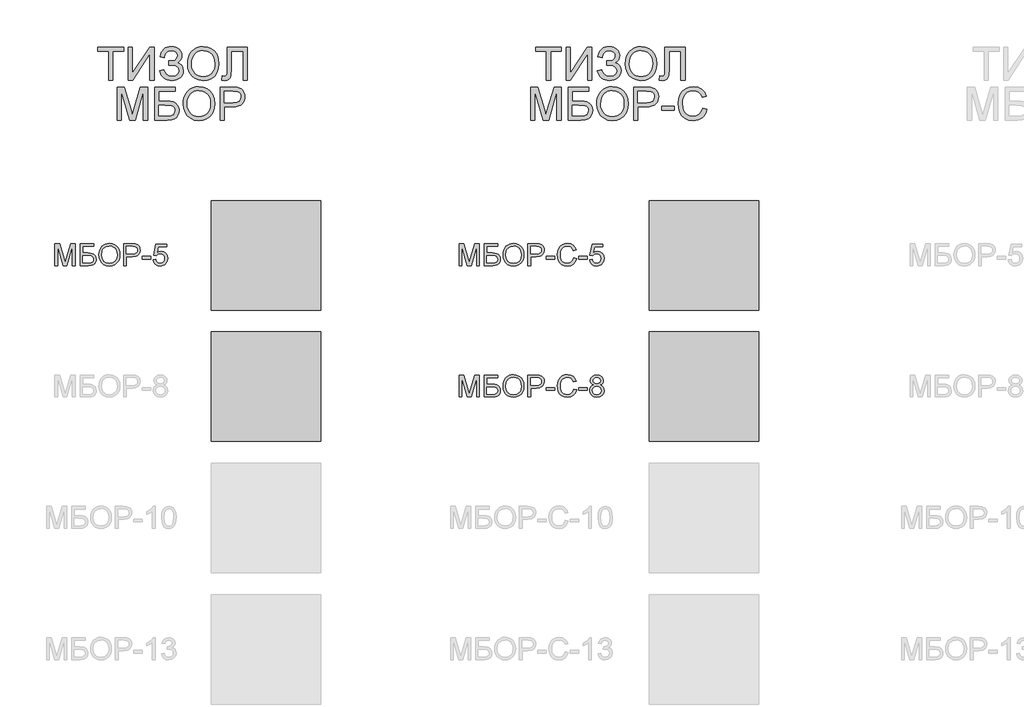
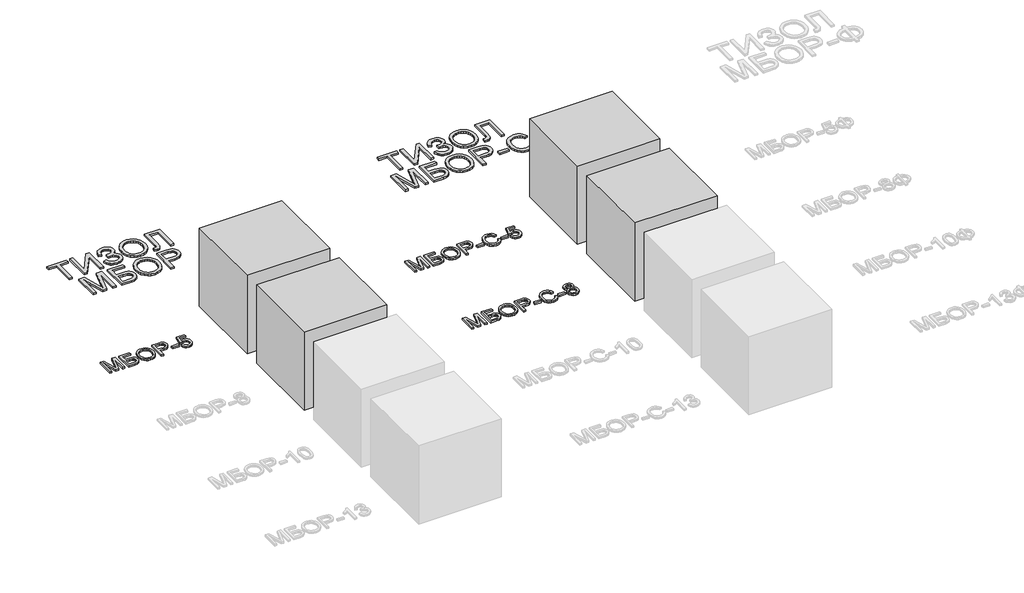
# One storey, part 24 of 35: 9 proxies.
"""IFC4 building model written with IfcOpenShell, lengths in millimetres."""

from ifc_helpers import new_model, si_unit, origin, origin_with_axes, place, context, project, spatial, polyline, outline, extrude, transform, mapped, element, save
from components import generic_models_0168a45e

model = new_model("IFC4")

# Units and contexts
model_context = context("Model", 3, world=origin())
ifc_project = project(units=[si_unit("LENGTHUNIT", "METRE", prefix="MILLI")], contexts=[model_context])

# Site, building, storey
site = spatial("IfcSite", under=ifc_project)
building = spatial("IfcBuilding", under=site)
storey = spatial("IfcBuildingStorey", under=building, Name="Этаж 01", Elevation=0.0)

# Proxies
placement = place(None, origin())
element("IfcBuildingElementProxy", 1, Name="600 мм Arial", ObjectType="600 мм Arial", at=placement, inside=storey, context=model_context, shape_type="SweptSolid", body=[
    extrude(outline(polyline([(8712.8246338, -20514.0239469), (8712.8246338, -20250.3261327), (8613.9379535, -20250.3261327), (8613.9379535, -20212.6550164), (8849.3824304, -20212.6550164), (8849.3824304, -20250.3261327), (8750.4957501, -20250.3261327), (8750.4957501, -20514.0239469), (8712.8246338, -20514.0239469)])), origin_with_axes(), (0.0, 0.0, 1.0), 20.0),
    extrude(outline(polyline([(8891.7624363, -20212.6550164), (8929.4335526, -20212.6550164), (8929.4335526, -20451.3368549), (9087.1813521, -20212.6550164), (9127.2069132, -20212.6550164), (9127.2069132, -20514.0239469), (9089.5357969, -20514.0239469), (9089.5357969, -20276.004296), (8932.1558793, -20514.0239469), (8891.7624363, -20514.0239469), (8891.7624363, -20212.6550164)])), origin_with_axes(), (0.0, 0.0, 1.0), 20.0),
    extrude(outline(polyline([(9179.0046981, -20429.2639352), (9216.6758144, -20419.8461561), (9224.6312626, -20440.2360157), (9239.8155919, -20460.6442694), (9261.6769795, -20475.9573574), (9289.6636023, -20481.0617201), (9318.018107, -20477.2265503), (9339.6587654, -20465.7210409), (9353.3715668, -20448.7892721), (9357.9425006, -20428.675324), (9352.9485025, -20407.6048827), (9337.9665082, -20391.3353015), (9314.3760753, -20380.9334381), (9283.5567611, -20377.4661503), (9263.7647098, -20377.4661503), (9263.7647098, -20339.795034), (9306.402233, -20336.7416134), (9320.2989754, -20331.315354), (9332.4850665, -20321.1434168), (9340.9831406, -20307.7433151), (9343.8158319, -20292.6325622), (9340.0450415, -20274.891453), (9328.7326701, -20259.6335472), (9310.9823639, -20249.1213192), (9287.8977687, -20245.6172432), (9267.0296625, -20248.3119788), (9249.4541002, -20256.3961856), (9235.9896192, -20268.9317646), (9227.4547569, -20284.9806167), (9221.384704, -20311.5416967), (9183.7135876, -20302.1239176), (9195.4168336, -20260.9211342), (9204.8311638, -20244.7343264), (9216.6206321, -20231.4905746), (9230.7852386, -20221.1898787), (9247.3249831, -20213.8322388), (9266.2398658, -20209.4176549), (9287.5298867, -20207.9461269), (9308.0416072, -20209.4751364), (9326.313846, -20214.0621651), (9342.3466032, -20221.7072128), (9356.1398788, -20232.4102796), (9367.2292217, -20245.15969), (9375.1501809, -20258.9437685), (9379.9027564, -20273.7625151), (9381.4869483, -20289.6159298), (9379.0221389, -20309.4401708), (9371.6277108, -20326.90077), (9359.3036639, -20341.9977274), (9342.0499984, -20354.731043), (9363.000878, -20364.3787483), (9380.2361495, -20380.6667236), (9391.76925, -20402.1970174), (9395.6136169, -20427.571678), (9393.7696084, -20446.2026018), (9388.2375829, -20463.2470345), (9379.0175404, -20478.7049761), (9366.1094809, -20492.5764266), (9350.1571978, -20504.0198559), (9331.8044848, -20512.1937339), (9311.0513418, -20517.0980608), (9287.8977687, -20518.7328364), (9249.6932235, -20513.1410301), (9233.3362703, -20506.1512722), (9218.80953, -20496.3656111), (9206.1130026, -20483.7840469), (9195.2466882, -20468.4065795), (9179.0046981, -20429.2639352)])), origin_with_axes(), (0.0, 0.0, 1.0), 20.0),
    extrude(outline(polyline([(9433.2847332, -20367.3126072), (9435.7955278, -20331.963746), (9443.3279116, -20300.6707838), (9455.8818847, -20273.4337205), (9473.457447, -20250.2525563), (9495.0015364, -20231.7434934), (9519.4610905, -20218.5227342), (9546.8361095, -20210.5902787), (9577.1265933, -20207.9461269), (9616.6555137, -20212.9125338), (9652.1009439, -20227.8117546), (9681.5315035, -20251.5953256), (9703.015812, -20283.2147831), (9716.1491993, -20321.1434168), (9720.526995, -20363.8545164), (9715.919273, -20407.1358332), (9702.096107, -20445.5978958), (9679.8208522, -20477.2725356), (9649.8568637, -20500.1915839), (9614.7149361, -20514.0975233), (9576.9058641, -20518.7328364), (9536.7699384, -20513.6100796), (9501.1221731, -20498.2418093), (9471.7651899, -20474.0167799), (9450.5016105, -20442.323746), (9437.5889525, -20405.8574432), (9433.2847332, -20367.3126072)]), holes=[polyline([(9470.9558495, -20367.6804892), (9472.8389454, -20392.6550781), (9478.4882333, -20414.8245669), (9487.9037131, -20434.1889554), (9501.0853849, -20450.7482437), (9517.108945, -20464.0103896), (9535.0500901, -20473.483351), (9554.90882, -20479.1671278), (9576.6851349, -20481.0617201), (9598.8339303, -20479.1487337), (9618.927185, -20473.4097746), (9636.9648991, -20463.8448427), (9652.9470725, -20450.4539381), (9666.0321752, -20433.5451619), (9675.3786771, -20413.4266153), (9680.9865783, -20390.0982983), (9682.8558787, -20363.5602108), (9679.6553053, -20330.211708), (9670.0535853, -20301.3881537), (9654.2990388, -20277.8161148), (9632.6399864, -20260.2221584), (9606.5111677, -20249.268472), (9577.3473225, -20245.6172432), (9556.327465, -20247.376179), (9536.8251207, -20252.6529863), (9518.8402897, -20261.4476653), (9502.3729719, -20273.7602158), (9488.6279808, -20290.1838476), (9478.8101301, -20311.3117705), (9472.9194196, -20337.1439843), (9470.9558495, -20367.6804892)])]), origin_with_axes(), (0.0, 0.0, 1.0), 20.0),
    extrude(outline(polyline([(9795.8692276, -20212.6550164), (9979.5159196, -20212.6550164), (9979.5159196, -20514.0239469), (9941.8448033, -20514.0239469), (9941.8448033, -20250.3261327), (9833.5403439, -20250.3261327), (9833.5403439, -20404.1008067), (9829.1625482, -20472.7107988), (9822.3843224, -20492.09818), (9810.8052366, -20506.6295188), (9794.9495226, -20515.707007), (9775.3414123, -20518.7328364), (9744.0714427, -20514.0239469), (9748.7803322, -20476.3528306), (9766.80655, -20481.0617201), (9779.5444641, -20478.5325314), (9788.6219523, -20470.9449652), (9794.0574088, -20453.9764082), (9795.8692276, -20423.3042469), (9795.8692276, -20212.6550164)])), origin_with_axes(), (0.0, 0.0, 1.0), 20.0),
    extrude(outline(polyline([(8790.5213112, -20879.9484004), (8790.5213112, -20578.57947), (8855.3421188, -20578.57947), (8916.9991411, -20790.994534), (8929.4335526, -20835.3611026), (8942.8980336, -20787.315714), (9003.5249864, -20578.57947), (9068.345794, -20578.57947), (9068.345794, -20879.9484004), (9030.6746777, -20879.9484004), (9030.6746777, -20616.2505863), (8954.964563, -20879.9484004), (8903.9025421, -20879.9484004), (8828.1924275, -20616.2505863), (8828.1924275, -20879.9484004), (8790.5213112, -20879.9484004)])), origin_with_axes(), (0.0, 0.0, 1.0), 20.0),
    extrude(outline(polyline([(9134.2702475, -20578.57947), (9322.625829, -20578.57947), (9322.625829, -20616.2505863), (9171.9413638, -20616.2505863), (9171.9413638, -20705.7194875), (9242.5011305, -20705.7194875), (9277.5786787, -20707.6324739), (9304.6731877, -20713.371433), (9325.4769145, -20724.4262869), (9341.6821164, -20742.2869578), (9352.1115709, -20765.2795825), (9355.5880558, -20791.730298), (9353.1140494, -20813.9411734), (9345.6920301, -20834.6621268), (9333.3587862, -20852.8079062), (9316.1511059, -20867.2932598), (9289.60842, -20876.7846152), (9249.2701592, -20879.9484004), (9134.2702475, -20879.9484004), (9134.2702475, -20578.57947)]), holes=[polyline([(9171.9413638, -20842.2772841), (9252.6546735, -20842.2772841), (9281.1839223, -20839.1686812), (9301.5829789, -20829.8428727), (9313.8334493, -20814.2998584), (9317.9169395, -20792.5396384), (9315.5808888, -20776.3344365), (9308.5727368, -20763.0355023), (9297.3983212, -20753.1762649), (9282.5634797, -20747.2901529), (9225.7992879, -20743.3906038), (9171.9413638, -20743.3906038), (9171.9413638, -20842.2772841)])]), origin_with_axes(), (0.0, 0.0, 1.0), 20.0),
    extrude(outline(polyline([(9393.2591721, -20733.2370607), (9395.7699667, -20697.8881995), (9403.3023506, -20666.5952373), (9415.8563237, -20639.3581741), (9433.431886, -20616.1770099), (9454.9759753, -20597.667947), (9479.4355295, -20584.4471878), (9506.8105484, -20576.5147323), (9537.1010322, -20573.8705804), (9576.6299526, -20578.8369874), (9612.0753828, -20593.7362082), (9641.5059424, -20617.5197791), (9662.990251, -20649.1392366), (9676.1236382, -20687.0678703), (9680.5014339, -20729.77897), (9675.8937119, -20773.0602867), (9662.070546, -20811.5223493), (9639.7952912, -20843.1969891), (9609.8313027, -20866.1160374), (9574.6893751, -20880.0219768), (9536.880303, -20884.6572899), (9496.7443773, -20879.5345332), (9461.096612, -20864.1662628), (9431.7396288, -20839.9412334), (9410.4760495, -20808.2481995), (9397.5633914, -20771.7818968), (9393.2591721, -20733.2370607)]), holes=[polyline([(9430.9302884, -20733.6049427), (9432.8133844, -20758.5795317), (9438.4626723, -20780.7490204), (9447.8781521, -20800.1134089), (9461.0598238, -20816.6726972), (9477.083384, -20829.9348432), (9495.024529, -20839.4078045), (9514.883259, -20845.0915814), (9536.6595738, -20846.9861736), (9558.8083692, -20845.0731873), (9578.9016239, -20839.3342281), (9596.939338, -20829.7692963), (9612.9215114, -20816.3783916), (9626.0066141, -20799.4696154), (9635.3531161, -20779.3510688), (9640.9610172, -20756.0227518), (9642.8303176, -20729.4846644), (9639.6297443, -20696.1361615), (9630.0280242, -20667.3126072), (9614.2734778, -20643.7405684), (9592.6144253, -20626.1466119), (9566.4856066, -20615.1929255), (9537.3217614, -20611.5416967), (9516.3019039, -20613.3006325), (9496.7995596, -20618.5774399), (9478.8147286, -20627.3721188), (9462.3474108, -20639.6846694), (9448.6024197, -20656.1083012), (9438.784569, -20677.236224), (9432.8938586, -20703.0684379), (9430.9302884, -20733.6049427)])]), origin_with_axes(), (0.0, 0.0, 1.0), 20.0),
    extrude(outline(polyline([(9732.2992189, -20879.9484004), (9732.2992189, -20578.57947), (9843.9881926, -20578.57947), (9889.0169488, -20581.4489495), (9909.0941087, -20586.8108296), (9925.6212073, -20595.5388299), (9938.9293385, -20608.0284237), (9949.349596, -20624.675084), (9956.0818365, -20644.3107854), (9958.3259167, -20665.7675028), (9956.8107027, -20684.2673686), (9952.2650608, -20701.2865094), (9944.688991, -20716.8249252), (9934.0824932, -20730.882616), (9919.521264, -20742.5352782), (9900.0809998, -20750.8586083), (9875.7617007, -20755.8526064), (9846.5633666, -20757.5172724), (9769.9703352, -20757.5172724), (9769.9703352, -20879.9484004), (9732.2992189, -20879.9484004)]), holes=[polyline([(9769.9703352, -20719.8461561), (9848.7706585, -20719.8461561), (9882.1743437, -20716.3880654), (9904.2472634, -20706.0137931), (9916.5529161, -20689.3671328), (9920.6548004, -20667.091878), (9918.2359763, -20650.1693062), (9910.9795039, -20635.8954848), (9899.7866942, -20625.1533305), (9885.558858, -20618.8257602), (9847.8877417, -20616.2505863), (9769.9703352, -20616.2505863), (9769.9703352, -20719.8461561)])]), origin_with_axes(), (0.0, 0.0, 1.0), 20.0),
])
element("IfcBuildingElementProxy", 2, Name="600 мм Arial", ObjectType="600 мм Arial", at=placement, inside=storey, context=model_context, shape_type="SweptSolid", body=[
    extrude(outline(polyline([(12712.8246338, -20514.0239469), (12712.8246338, -20250.3261327), (12613.9379535, -20250.3261327), (12613.9379535, -20212.6550164), (12849.3824304, -20212.6550164), (12849.3824304, -20250.3261327), (12750.4957501, -20250.3261327), (12750.4957501, -20514.0239469), (12712.8246338, -20514.0239469)])), origin_with_axes(), (0.0, 0.0, 1.0), 20.0),
    extrude(outline(polyline([(12891.7624363, -20212.6550164), (12929.4335526, -20212.6550164), (12929.4335526, -20451.3368549), (13087.1813521, -20212.6550164), (13127.2069132, -20212.6550164), (13127.2069132, -20514.0239469), (13089.5357969, -20514.0239469), (13089.5357969, -20276.004296), (12932.1558793, -20514.0239469), (12891.7624363, -20514.0239469), (12891.7624363, -20212.6550164)])), origin_with_axes(), (0.0, 0.0, 1.0), 20.0),
    extrude(outline(polyline([(13179.0046981, -20429.2639352), (13216.6758144, -20419.8461561), (13224.6312626, -20440.2360157), (13239.8155919, -20460.6442694), (13261.6769795, -20475.9573574), (13289.6636023, -20481.0617201), (13318.018107, -20477.2265503), (13339.6587654, -20465.7210409), (13353.3715668, -20448.7892721), (13357.9425006, -20428.675324), (13352.9485025, -20407.6048827), (13337.9665082, -20391.3353015), (13314.3760753, -20380.9334381), (13283.5567611, -20377.4661503), (13263.7647098, -20377.4661503), (13263.7647098, -20339.795034), (13306.402233, -20336.7416134), (13320.2989754, -20331.315354), (13332.4850665, -20321.1434168), (13340.9831406, -20307.7433151), (13343.8158319, -20292.6325622), (13340.0450415, -20274.891453), (13328.7326701, -20259.6335472), (13310.9823639, -20249.1213192), (13287.8977687, -20245.6172432), (13267.0296625, -20248.3119788), (13249.4541002, -20256.3961856), (13235.9896192, -20268.9317646), (13227.4547569, -20284.9806167), (13221.384704, -20311.5416967), (13183.7135876, -20302.1239176), (13195.4168336, -20260.9211342), (13204.8311638, -20244.7343264), (13216.6206321, -20231.4905746), (13230.7852386, -20221.1898787), (13247.3249831, -20213.8322388), (13266.2398658, -20209.4176549), (13287.5298867, -20207.9461269), (13308.0416072, -20209.4751364), (13326.313846, -20214.0621651), (13342.3466032, -20221.7072128), (13356.1398788, -20232.4102796), (13367.2292217, -20245.15969), (13375.1501809, -20258.9437685), (13379.9027564, -20273.7625151), (13381.4869483, -20289.6159298), (13379.0221389, -20309.4401708), (13371.6277108, -20326.90077), (13359.3036639, -20341.9977274), (13342.0499984, -20354.731043), (13363.000878, -20364.3787483), (13380.2361495, -20380.6667236), (13391.76925, -20402.1970174), (13395.6136169, -20427.571678), (13393.7696084, -20446.2026018), (13388.2375829, -20463.2470345), (13379.0175404, -20478.7049761), (13366.1094809, -20492.5764266), (13350.1571978, -20504.0198559), (13331.8044848, -20512.1937339), (13311.0513418, -20517.0980608), (13287.8977687, -20518.7328364), (13249.6932235, -20513.1410301), (13233.3362703, -20506.1512722), (13218.80953, -20496.3656111), (13206.1130026, -20483.7840469), (13195.2466882, -20468.4065795), (13179.0046981, -20429.2639352)])), origin_with_axes(), (0.0, 0.0, 1.0), 20.0),
    extrude(outline(polyline([(13433.2847332, -20367.3126072), (13435.7955278, -20331.963746), (13443.3279116, -20300.6707838), (13455.8818847, -20273.4337206), (13473.457447, -20250.2525563), (13495.0015364, -20231.7434934), (13519.4610905, -20218.5227342), (13546.8361095, -20210.5902787), (13577.1265933, -20207.9461269), (13616.6555137, -20212.9125338), (13652.1009439, -20227.8117546), (13681.5315035, -20251.5953256), (13703.015812, -20283.2147831), (13716.1491993, -20321.1434168), (13720.526995, -20363.8545164), (13715.919273, -20407.1358332), (13702.096107, -20445.5978958), (13679.8208522, -20477.2725356), (13649.8568637, -20500.1915839), (13614.7149361, -20514.0975233), (13576.9058641, -20518.7328364), (13536.7699384, -20513.6100796), (13501.1221731, -20498.2418093), (13471.7651899, -20474.0167799), (13450.5016105, -20442.323746), (13437.5889525, -20405.8574432), (13433.2847332, -20367.3126072)]), holes=[polyline([(13470.9558495, -20367.6804892), (13472.8389454, -20392.6550781), (13478.4882333, -20414.8245669), (13487.9037131, -20434.1889554), (13501.0853849, -20450.7482437), (13517.108945, -20464.0103896), (13535.0500901, -20473.483351), (13554.90882, -20479.1671278), (13576.6851349, -20481.0617201), (13598.8339303, -20479.1487337), (13618.927185, -20473.4097746), (13636.9648991, -20463.8448427), (13652.9470725, -20450.4539381), (13666.0321752, -20433.5451619), (13675.3786771, -20413.4266153), (13680.9865783, -20390.0982983), (13682.8558787, -20363.5602108), (13679.6553053, -20330.211708), (13670.0535853, -20301.3881537), (13654.2990388, -20277.8161148), (13632.6399864, -20260.2221584), (13606.5111677, -20249.268472), (13577.3473225, -20245.6172432), (13556.327465, -20247.376179), (13536.8251207, -20252.6529863), (13518.8402897, -20261.4476653), (13502.3729719, -20273.7602158), (13488.6279808, -20290.1838476), (13478.8101301, -20311.3117705), (13472.9194196, -20337.1439843), (13470.9558495, -20367.6804892)])]), origin_with_axes(), (0.0, 0.0, 1.0), 20.0),
    extrude(outline(polyline([(13795.8692276, -20212.6550164), (13979.5159196, -20212.6550164), (13979.5159196, -20514.0239469), (13941.8448033, -20514.0239469), (13941.8448033, -20250.3261327), (13833.5403439, -20250.3261327), (13833.5403439, -20404.1008067), (13829.1625482, -20472.7107988), (13822.3843224, -20492.09818), (13810.8052366, -20506.6295188), (13794.9495226, -20515.707007), (13775.3414123, -20518.7328364), (13744.0714427, -20514.0239469), (13748.7803322, -20476.3528306), (13766.80655, -20481.0617201), (13779.5444641, -20478.5325314), (13788.6219523, -20470.9449652), (13794.0574088, -20453.9764082), (13795.8692276, -20423.3042469), (13795.8692276, -20212.6550164)])), origin_with_axes(), (0.0, 0.0, 1.0), 20.0),
    extrude(outline(polyline([(12569.2035029, -20879.9484004), (12569.2035029, -20578.57947), (12634.0243105, -20578.57947), (12695.6813328, -20790.994534), (12708.1157443, -20835.3611026), (12721.5802253, -20787.315714), (12782.2071781, -20578.57947), (12847.0279857, -20578.57947), (12847.0279857, -20879.9484004), (12809.3568694, -20879.9484004), (12809.3568694, -20616.2505863), (12733.6467547, -20879.9484004), (12682.5847338, -20879.9484004), (12606.8746192, -20616.2505863), (12606.8746192, -20879.9484004), (12569.2035029, -20879.9484004)])), origin_with_axes(), (0.0, 0.0, 1.0), 20.0),
    extrude(outline(polyline([(12912.9524392, -20578.57947), (13101.3080207, -20578.57947), (13101.3080207, -20616.2505863), (12950.6235555, -20616.2505863), (12950.6235555, -20705.7194875), (13021.1833222, -20705.7194875), (13056.2608704, -20707.6324739), (13083.3553794, -20713.371433), (13104.1591062, -20724.4262869), (13120.3643081, -20742.2869578), (13130.7937626, -20765.2795825), (13134.2702475, -20791.730298), (13131.7962411, -20813.9411734), (13124.3742218, -20834.6621268), (13112.0409779, -20852.8079062), (13094.8332976, -20867.2932598), (13068.2906117, -20876.7846152), (13027.9523509, -20879.9484004), (12912.9524392, -20879.9484004), (12912.9524392, -20578.57947)]), holes=[polyline([(12950.6235555, -20842.2772841), (13031.3368652, -20842.2772841), (13059.866114, -20839.1686812), (13080.2651706, -20829.8428727), (13092.515641, -20814.2998584), (13096.5991312, -20792.5396384), (13094.2630805, -20776.3344365), (13087.2549285, -20763.0355023), (13076.0805129, -20753.1762649), (13061.2456715, -20747.2901529), (13004.4814796, -20743.3906038), (12950.6235555, -20743.3906038), (12950.6235555, -20842.2772841)])]), origin_with_axes(), (0.0, 0.0, 1.0), 20.0),
    extrude(outline(polyline([(13171.9413638, -20733.2370607), (13174.4521584, -20697.8881995), (13181.9845423, -20666.5952373), (13194.5385154, -20639.3581741), (13212.1140777, -20616.1770099), (13233.658167, -20597.667947), (13258.1177212, -20584.4471878), (13285.4927401, -20576.5147323), (13315.7832239, -20573.8705804), (13355.3121443, -20578.8369874), (13390.7575745, -20593.7362082), (13420.1881341, -20617.5197791), (13441.6724427, -20649.1392366), (13454.8058299, -20687.0678703), (13459.1836256, -20729.77897), (13454.5759036, -20773.0602867), (13440.7527377, -20811.5223493), (13418.4774829, -20843.1969891), (13388.5134944, -20866.1160374), (13353.3715668, -20880.0219768), (13315.5624947, -20884.6572899), (13275.426569, -20879.5345332), (13239.7788037, -20864.1662628), (13210.4218205, -20839.9412334), (13189.1582412, -20808.2481995), (13176.2455831, -20771.7818968), (13171.9413638, -20733.2370607)]), holes=[polyline([(13209.6124801, -20733.6049427), (13211.4955761, -20758.5795317), (13217.144864, -20780.7490204), (13226.5603438, -20800.1134089), (13239.7420155, -20816.6726972), (13255.7655757, -20829.9348432), (13273.7067207, -20839.4078045), (13293.5654507, -20845.0915814), (13315.3417655, -20846.9861736), (13337.4905609, -20845.0731873), (13357.5838156, -20839.3342281), (13375.6215297, -20829.7692963), (13391.6037031, -20816.3783916), (13404.6888058, -20799.4696154), (13414.0353078, -20779.3510688), (13419.6432089, -20756.0227518), (13421.5125093, -20729.4846644), (13418.311936, -20696.1361615), (13408.7102159, -20667.3126072), (13392.9556695, -20643.7405684), (13371.296617, -20626.1466119), (13345.1677983, -20615.1929255), (13316.0039531, -20611.5416967), (13294.9840956, -20613.3006325), (13275.4817513, -20618.5774399), (13257.4969203, -20627.3721188), (13241.0296025, -20639.6846694), (13227.2846114, -20656.1083012), (13217.4667607, -20677.236224), (13211.5760503, -20703.0684379), (13209.6124801, -20733.6049427)])]), origin_with_axes(), (0.0, 0.0, 1.0), 20.0),
    extrude(outline(polyline([(13510.9814106, -20879.9484004), (13510.9814106, -20578.57947), (13622.6703843, -20578.57947), (13667.6991405, -20581.4489495), (13687.7763004, -20586.8108296), (13704.303399, -20595.5388299), (13717.6115302, -20608.0284237), (13728.0317877, -20624.675084), (13734.7640282, -20644.3107854), (13737.0081084, -20665.7675028), (13735.4928944, -20684.2673686), (13730.9472525, -20701.2865094), (13723.3711827, -20716.8249252), (13712.7646849, -20730.882616), (13698.2034557, -20742.5352782), (13678.7631915, -20750.8586083), (13654.4438924, -20755.8526064), (13625.2455583, -20757.5172724), (13548.6525269, -20757.5172724), (13548.6525269, -20879.9484004), (13510.9814106, -20879.9484004)]), holes=[polyline([(13548.6525269, -20719.8461561), (13627.4528502, -20719.8461561), (13660.8565354, -20716.3880654), (13682.9294551, -20706.0137931), (13695.2351078, -20689.3671328), (13699.3369921, -20667.091878), (13696.918168, -20650.1693062), (13689.6616956, -20635.8954848), (13678.4688859, -20625.1533305), (13664.2410497, -20618.8257602), (13626.5699334, -20616.2505863), (13548.6525269, -20616.2505863), (13548.6525269, -20719.8461561)])]), origin_with_axes(), (0.0, 0.0, 1.0), 20.0),
    extrude(outline(polyline([(13765.2614456, -20790.4794992), (13765.2614456, -20752.8083829), (13882.9836841, -20752.8083829), (13882.9836841, -20790.4794992), (13765.2614456, -20790.4794992)])), origin_with_axes(), (0.0, 0.0, 1.0), 20.0),
    extrude(outline(polyline([(14141.9726087, -20772.8211634), (14179.643725, -20782.5332481), (14172.1895161, -20805.9604334), (14162.2613007, -20826.4307672), (14149.859079, -20843.9442494), (14134.9828508, -20858.5008801), (14117.9683085, -20869.9443094), (14099.1511444, -20878.1181875), (14078.5313586, -20883.0225143), (14056.108951, -20884.6572899), (14012.413767, -20879.7092771), (13977.7132978, -20864.8652386), (13951.1154296, -20840.6402092), (13931.7280484, -20807.5492238), (13919.8914452, -20768.6457028), (13915.9459108, -20726.9830668), (13920.40648, -20683.0395625), (13933.7881876, -20645.0925347), (13955.3920578, -20614.3467969), (13984.5191147, -20592.0071628), (14019.0632341, -20578.404726), (14056.9182914, -20573.8705804), (14098.2222424, -20579.7382982), (14116.1909786, -20587.0729455), (14132.3708886, -20597.3414517), (14146.495258, -20610.2725038), (14158.2973722, -20625.5947889), (14174.9348354, -20663.413058), (14137.2637191, -20672.3893787), (14124.2039083, -20644.9177907), (14106.3616315, -20626.0730355), (14083.5161596, -20615.1745314), (14055.4467634, -20611.5416967), (14023.0915419, -20615.5700046), (13996.5120678, -20627.6549281), (13976.3429374, -20646.5272745), (13963.2187472, -20670.9178507), (13956.0174572, -20698.4906063), (13953.6170272, -20726.9094904), (13956.4589156, -20761.7111272), (13964.9845808, -20791.8038744), (13979.5159196, -20816.0381008), (14000.3748287, -20833.2641752), (14025.3816074, -20843.555674), (14052.3565547, -20846.9861736), (14083.8012682, -20842.3140723), (14110.0036633, -20828.2977683), (14129.7865176, -20805.0844144), (14141.9726087, -20772.8211634)])), origin_with_axes(), (0.0, 0.0, 1.0), 20.0),
])
element("IfcBuildingElementProxy", 3, Name="400 мм Arial", ObjectType="400 мм Arial", at=placement, inside=storey, context=model_context, shape_type="SweptSolid", body=[
    extrude(outline(polyline([(8221.9690007, -22210.2364996), (8221.9690007, -22009.3238793), (8265.1828724, -22009.3238793), (8306.287554, -22150.933922), (8314.5771616, -22180.5116344), (8323.5534823, -22148.4813754), (8363.9714508, -22009.3238793), (8407.1853225, -22009.3238793), (8407.1853225, -22210.2364996), (8382.071245, -22210.2364996), (8382.071245, -22034.4379569), (8331.5978353, -22210.2364996), (8297.556488, -22210.2364996), (8247.0830782, -22034.4379569), (8247.0830782, -22210.2364996), (8221.9690007, -22210.2364996)])), origin_with_axes(), (0.0, 0.0, 1.0), 20.0),
    extrude(outline(polyline([(8451.1349582, -22009.3238793), (8576.7053459, -22009.3238793), (8576.7053459, -22034.4379569), (8476.2490358, -22034.4379569), (8476.2490358, -22094.083891), (8523.2888802, -22094.083891), (8546.6739124, -22095.3592153), (8564.7369183, -22099.185188), (8578.6060696, -22106.5550907), (8589.4095375, -22118.4622046), (8596.3625072, -22133.790621), (8598.6801638, -22151.4244313), (8597.0308261, -22166.2316816), (8592.0828133, -22180.0456506), (8583.8606507, -22192.1428368), (8572.3888638, -22201.7997392), (8554.6937399, -22208.1273095), (8527.801566, -22210.2364996), (8451.1349582, -22210.2364996), (8451.1349582, -22009.3238793)]), holes=[polyline([(8476.2490358, -22185.1224221), (8530.0579089, -22185.1224221), (8549.0774081, -22183.0500202), (8562.6767792, -22176.8328145), (8570.8437595, -22166.4708049), (8573.5660862, -22151.9639916), (8572.0087191, -22141.1605237), (8567.3366178, -22132.2945676), (8559.8870074, -22125.7217426), (8549.9971131, -22121.797668), (8512.1543185, -22119.1979686), (8476.2490358, -22119.1979686), (8476.2490358, -22185.1224221)])]), origin_with_axes(), (0.0, 0.0, 1.0), 20.0),
    extrude(outline(polyline([(8623.7942413, -22112.4289398), (8625.4681044, -22088.8630324), (8630.4896936, -22068.0010576), (8638.859009, -22049.8430154), (8650.5760505, -22034.3889059), (8664.9387768, -22022.0495307), (8681.2451462, -22013.2356912), (8699.4951589, -22007.9473875), (8719.6888147, -22006.1846196), (8746.0414283, -22009.4955576), (8769.6717151, -22019.4283715), (8789.2920882, -22035.2840855), (8803.6149605, -22056.3637238), (8812.370552, -22081.6494796), (8815.2890825, -22110.123546), (8812.2172679, -22138.9777572), (8803.0018239, -22164.6191322), (8788.151654, -22185.7355588), (8768.1756617, -22201.0149243), (8744.7477099, -22210.2855506), (8719.5416619, -22213.3757593), (8692.7843781, -22209.9605881), (8669.0192012, -22199.7150746), (8649.4478791, -22183.565055), (8635.2721595, -22162.4363657), (8626.6637209, -22138.1254972), (8623.7942413, -22112.4289398)]), holes=[polyline([(8648.9083188, -22112.6741945), (8653.9299081, -22144.1035796), (8668.9946758, -22168.0526975), (8691.6378126, -22183.2094357), (8719.3945091, -22188.2616818), (8747.5558758, -22183.1603848), (8770.2358008, -22167.8564938), (8778.9592027, -22156.5839763), (8785.1902039, -22143.1716119), (8790.175005, -22109.9273423), (8788.0412894, -22087.695007), (8781.6401427, -22068.4793042), (8771.1371117, -22052.7646116), (8756.6977434, -22041.0353073), (8739.2785309, -22033.7328497), (8719.8359675, -22031.2986972), (8692.8211663, -22035.9891926), (8669.8530671, -22050.0606789), (8660.6897397, -22061.0097668), (8654.1445059, -22075.0950487), (8648.9083188, -22112.6741945)])]), origin_with_axes(), (0.0, 0.0, 1.0), 20.0),
    extrude(outline(polyline([(8849.8209391, -22210.2364996), (8849.8209391, -22009.3238793), (8924.280255, -22009.3238793), (8954.2994258, -22011.2368657), (8978.7022648, -22020.6301193), (8987.5743522, -22028.9565151), (8994.5211906, -22040.0542887), (8999.0093509, -22053.1447563), (9000.5054044, -22067.4492346), (8996.4648338, -22091.1285723), (8984.343122, -22110.85931), (8974.6356359, -22118.6277515), (8961.6754598, -22124.1766382), (8925.9970376, -22128.6157476), (8874.9350167, -22128.6157476), (8874.9350167, -22210.2364996), (8849.8209391, -22210.2364996)]), holes=[polyline([(8874.9350167, -22103.5016701), (8927.4685656, -22103.5016701), (8949.737689, -22101.1962763), (8964.4529688, -22094.2800948), (8972.6567373, -22083.1823212), (8975.3913268, -22068.3321514), (8973.7787774, -22057.0504368), (8968.9411292, -22047.5345559), (8961.479256, -22040.3731197), (8951.9940319, -22036.1547395), (8926.8799544, -22034.4379569), (8874.9350167, -22034.4379569), (8874.9350167, -22103.5016701)])]), origin_with_axes(), (0.0, 0.0, 1.0), 20.0),
    extrude(outline(polyline([(9019.3409625, -22150.5905655), (9019.3409625, -22125.4764879), (9097.8224548, -22125.4764879), (9097.8224548, -22150.5905655), (9019.3409625, -22150.5905655)])), origin_with_axes(), (0.0, 0.0, 1.0), 20.0),
    extrude(outline(polyline([(9119.7972727, -22156.8690849), (9144.9113502, -22153.7298252), (9149.5221379, -22168.8068556), (9157.5664908, -22179.6041922), (9169.0076209, -22186.0973094), (9183.8087398, -22188.2616818), (9201.8104321, -22185.2511808), (9215.2994386, -22176.2196778), (9223.7239363, -22162.2095052), (9226.5321022, -22144.2629952), (9223.9017459, -22127.3649489), (9216.0106771, -22114.4400281), (9202.7975821, -22106.2362596), (9184.2011473, -22103.5016701), (9162.152753, -22107.8672031), (9148.0506099, -22119.1979686), (9122.9365324, -22116.0587089), (9144.9113502, -22012.463139), (9242.2284007, -22012.463139), (9242.2284007, -22037.5772166), (9165.2184363, -22037.5772166), (9154.4762821, -22092.9066686), (9172.4166607, -22082.0173616), (9191.2154307, -22078.3875926), (9214.6801706, -22082.8880156), (9234.1595222, -22096.3892849), (9247.2745154, -22116.9661511), (9251.6461797, -22142.6933653), (9247.7098424, -22167.8074429), (9235.9008303, -22189.2917514), (9225.4652444, -22199.8285049), (9213.2883504, -22207.3547573), (9199.3701482, -22211.8705088), (9183.710638, -22213.3757593), (9159.0441502, -22209.506867), (9139.3931203, -22197.9001901), (9125.9225079, -22179.9046291), (9119.7972727, -22156.8690849)])), origin_with_axes(), (0.0, 0.0, 1.0), 20.0),
])
element("IfcBuildingElementProxy", 4, Name="400 мм Arial", ObjectType="400 мм Arial", at=placement, inside=storey, context=model_context, shape_type="SweptSolid", body=[
    extrude(outline(polyline([(11914.4237952, -22210.2364996), (11914.4237952, -22009.3238793), (11957.6376669, -22009.3238793), (11998.7423485, -22150.933922), (12007.0319561, -22180.5116344), (12016.0082768, -22148.4813754), (12056.4262453, -22009.3238793), (12099.640117, -22009.3238793), (12099.640117, -22210.2364996), (12074.5260395, -22210.2364996), (12074.5260395, -22034.4379569), (12024.0526297, -22210.2364996), (11990.0112824, -22210.2364996), (11939.5378727, -22034.4379569), (11939.5378727, -22210.2364996), (11914.4237952, -22210.2364996)])), origin_with_axes(), (0.0, 0.0, 1.0), 20.0),
    extrude(outline(polyline([(12143.5897527, -22009.3238793), (12269.1601404, -22009.3238793), (12269.1601404, -22034.4379569), (12168.7038302, -22034.4379569), (12168.7038302, -22094.083891), (12215.7436747, -22094.083891), (12239.1287068, -22095.3592153), (12257.1917128, -22099.185188), (12271.060864, -22106.5550907), (12281.8643319, -22118.4622046), (12288.8173017, -22133.790621), (12291.1349582, -22151.4244313), (12289.4856206, -22166.2316816), (12284.5376078, -22180.0456506), (12276.3154452, -22192.1428368), (12264.8436583, -22201.7997392), (12247.1485343, -22208.1273095), (12220.2563605, -22210.2364996), (12143.5897527, -22210.2364996), (12143.5897527, -22009.3238793)]), holes=[polyline([(12168.7038302, -22185.1224221), (12222.5127034, -22185.1224221), (12241.5322025, -22183.0500202), (12255.1315736, -22176.8328145), (12263.2985539, -22166.4708049), (12266.0208807, -22151.9639916), (12264.4635136, -22141.1605237), (12259.7914122, -22132.2945676), (12252.3418018, -22125.7217426), (12242.4519075, -22121.797668), (12204.609113, -22119.1979686), (12168.7038302, -22119.1979686), (12168.7038302, -22185.1224221)])]), origin_with_axes(), (0.0, 0.0, 1.0), 20.0),
    extrude(outline(polyline([(12316.2490358, -22112.4289398), (12317.9228988, -22088.8630324), (12322.9444881, -22068.0010576), (12331.3138035, -22049.8430154), (12343.030845, -22034.3889059), (12357.3935712, -22022.0495307), (12373.6999407, -22013.2356912), (12391.9499533, -22007.9473875), (12412.1436092, -22006.1846196), (12438.4962228, -22009.4955576), (12462.1265096, -22019.4283715), (12481.7468827, -22035.2840855), (12496.069755, -22056.3637238), (12504.8253465, -22081.6494796), (12507.743877, -22110.123546), (12504.6720623, -22138.9777572), (12495.4566183, -22164.6191322), (12480.6064485, -22185.7355588), (12460.6304561, -22201.0149243), (12437.2025044, -22210.2855506), (12411.9964564, -22213.3757593), (12385.2391726, -22209.9605881), (12361.4739957, -22199.7150746), (12341.9026736, -22183.565055), (12327.726954, -22162.4363657), (12319.1185153, -22138.1254972), (12316.2490358, -22112.4289398)]), holes=[polyline([(12341.3631133, -22112.6741945), (12346.3847025, -22144.1035796), (12361.4494702, -22168.0526975), (12384.092607, -22183.2094357), (12411.8493036, -22188.2616818), (12440.0106703, -22183.1603848), (12462.6905953, -22167.8564938), (12471.4139971, -22156.5839763), (12477.6449984, -22143.1716119), (12482.6297994, -22109.9273423), (12480.4960839, -22087.695007), (12474.0949372, -22068.4793042), (12463.5919062, -22052.7646116), (12449.1525379, -22041.0353073), (12431.7333254, -22033.7328497), (12412.290762, -22031.2986972), (12385.2759608, -22035.9891926), (12362.3078616, -22050.0606789), (12353.1445342, -22061.0097668), (12346.5993004, -22075.0950487), (12341.3631133, -22112.6741945)])]), origin_with_axes(), (0.0, 0.0, 1.0), 20.0),
    extrude(outline(polyline([(12542.2757336, -22210.2364996), (12542.2757336, -22009.3238793), (12616.7350494, -22009.3238793), (12646.7542202, -22011.2368657), (12671.1570592, -22020.6301193), (12680.0291467, -22028.9565151), (12686.975985, -22040.0542887), (12691.4641454, -22053.1447563), (12692.9601988, -22067.4492346), (12688.9196282, -22091.1285723), (12676.7979165, -22110.85931), (12667.0904304, -22118.6277515), (12654.1302542, -22124.1766382), (12618.4518321, -22128.6157476), (12567.3898111, -22128.6157476), (12567.3898111, -22210.2364996), (12542.2757336, -22210.2364996)]), holes=[polyline([(12567.3898111, -22103.5016701), (12619.92336, -22103.5016701), (12642.1924835, -22101.1962763), (12656.9077633, -22094.2800948), (12665.1115318, -22083.1823212), (12667.8461213, -22068.3321514), (12666.2335719, -22057.0504368), (12661.3959236, -22047.5345559), (12653.9340505, -22040.3731197), (12644.4488264, -22036.1547395), (12619.3347489, -22034.4379569), (12567.3898111, -22034.4379569), (12567.3898111, -22103.5016701)])]), origin_with_axes(), (0.0, 0.0, 1.0), 20.0),
    extrude(outline(polyline([(12711.795757, -22150.5905655), (12711.795757, -22125.4764879), (12790.2772493, -22125.4764879), (12790.2772493, -22150.5905655), (12711.795757, -22150.5905655)])), origin_with_axes(), (0.0, 0.0, 1.0), 20.0),
    extrude(outline(polyline([(12962.9365324, -22138.8183416), (12988.0506099, -22145.2930648), (12976.462327, -22174.5580775), (12958.2766937, -22195.9381528), (12934.3888895, -22209.0163577), (12905.6940939, -22213.3757593), (12876.5639713, -22210.0770841), (12853.4303251, -22200.1810584), (12835.698413, -22184.0310388), (12822.7734922, -22161.9703819), (12814.8824234, -22136.0347012), (12812.2520671, -22108.2596106), (12815.2257799, -22078.963941), (12824.1469183, -22053.6659225), (12838.5494984, -22033.168764), (12857.9675364, -22018.2756746), (12880.9969493, -22009.2073834), (12906.2336542, -22006.1846196), (12933.7696215, -22010.0964315), (12956.5353856, -22021.8318672), (12973.819708, -22040.6674253), (12984.9113502, -22065.8796047), (12959.7972727, -22071.8638185), (12951.0907321, -22053.5494265), (12939.1958809, -22040.9862564), (12923.9655663, -22033.720587), (12905.2526355, -22031.2986972), (12883.6824879, -22033.9842357), (12865.9628384, -22042.0408514), (12852.5167515, -22054.6224157), (12843.7672914, -22070.8827999), (12838.9664313, -22089.2646369), (12837.3661447, -22108.2105596), (12839.2607369, -22131.4116508), (12844.9445138, -22151.4734823), (12854.632073, -22167.6296332), (12868.5380124, -22179.1136828), (12885.2091981, -22185.9746821), (12903.1924963, -22188.2616818), (12924.1556387, -22185.1469476), (12941.6239021, -22175.8027449), (12954.8124716, -22160.3271756), (12962.9365324, -22138.8183416)])), origin_with_axes(), (0.0, 0.0, 1.0), 20.0),
    extrude(outline(polyline([(13006.886168, -22150.5905655), (13006.886168, -22125.4764879), (13085.3676603, -22125.4764879), (13085.3676603, -22150.5905655), (13006.886168, -22150.5905655)])), origin_with_axes(), (0.0, 0.0, 1.0), 20.0),
    extrude(outline(polyline([(13107.3424782, -22156.8690849), (13132.4565557, -22153.7298252), (13137.0673434, -22168.8068556), (13145.1116964, -22179.6041922), (13156.5528264, -22186.0973094), (13171.3539454, -22188.2616818), (13189.3556377, -22185.2511808), (13202.8446441, -22176.2196778), (13211.2691418, -22162.2095052), (13214.0773077, -22144.2629952), (13211.4469515, -22127.3649489), (13203.5558827, -22114.4400281), (13190.3427877, -22106.2362596), (13171.7463528, -22103.5016701), (13149.6979586, -22107.8672031), (13135.5958154, -22119.1979686), (13110.4817379, -22116.0587089), (13132.4565557, -22012.463139), (13229.7736062, -22012.463139), (13229.7736062, -22037.5772166), (13152.7636419, -22037.5772166), (13142.0214876, -22092.9066686), (13159.9618662, -22082.0173616), (13178.7606362, -22078.3875926), (13202.2253761, -22082.8880156), (13221.7047278, -22096.3892849), (13234.8197209, -22116.9661511), (13239.1913853, -22142.6933653), (13235.2550479, -22167.8074429), (13223.4460359, -22189.2917514), (13213.0104499, -22199.8285049), (13200.8335559, -22207.3547573), (13186.9153537, -22211.8705088), (13171.2558435, -22213.3757593), (13146.5893557, -22209.506867), (13126.9383258, -22197.9001901), (13113.4677134, -22179.9046291), (13107.3424782, -22156.8690849)])), origin_with_axes(), (0.0, 0.0, 1.0), 20.0),
])
element("IfcBuildingElementProxy", 5, Name="400 мм Arial", ObjectType="400 мм Arial", at=placement, inside=storey, context=model_context, shape_type="SweptSolid", body=[
    extrude(outline(polyline([(11914.4237952, -23410.2364996), (11914.4237952, -23209.3238793), (11957.6376669, -23209.3238793), (11998.7423485, -23350.933922), (12007.0319561, -23380.5116344), (12016.0082768, -23348.4813754), (12056.4262453, -23209.3238793), (12099.640117, -23209.3238793), (12099.640117, -23410.2364996), (12074.5260395, -23410.2364996), (12074.5260395, -23234.4379569), (12024.0526297, -23410.2364996), (11990.0112824, -23410.2364996), (11939.5378727, -23234.4379569), (11939.5378727, -23410.2364996), (11914.4237952, -23410.2364996)])), origin_with_axes(), (0.0, 0.0, 1.0), 20.0),
    extrude(outline(polyline([(12143.5897527, -23209.3238793), (12269.1601404, -23209.3238793), (12269.1601404, -23234.4379569), (12168.7038302, -23234.4379569), (12168.7038302, -23294.083891), (12215.7436747, -23294.083891), (12239.1287068, -23295.3592153), (12257.1917128, -23299.185188), (12271.060864, -23306.5550907), (12281.8643319, -23318.4622046), (12288.8173017, -23333.790621), (12291.1349582, -23351.4244313), (12289.4856206, -23366.2316816), (12284.5376078, -23380.0456506), (12276.3154452, -23392.1428368), (12264.8436583, -23401.7997392), (12247.1485343, -23408.1273095), (12220.2563605, -23410.2364996), (12143.5897527, -23410.2364996), (12143.5897527, -23209.3238793)]), holes=[polyline([(12168.7038302, -23385.1224221), (12222.5127034, -23385.1224221), (12241.5322025, -23383.0500202), (12255.1315736, -23376.8328145), (12263.2985539, -23366.4708049), (12266.0208807, -23351.9639916), (12264.4635136, -23341.1605237), (12259.7914122, -23332.2945676), (12252.3418018, -23325.7217426), (12242.4519075, -23321.797668), (12204.609113, -23319.1979686), (12168.7038302, -23319.1979686), (12168.7038302, -23385.1224221)])]), origin_with_axes(), (0.0, 0.0, 1.0), 20.0),
    extrude(outline(polyline([(12316.2490358, -23312.4289398), (12317.9228988, -23288.8630324), (12322.9444881, -23268.0010576), (12331.3138035, -23249.8430154), (12343.030845, -23234.3889059), (12357.3935712, -23222.0495307), (12373.6999407, -23213.2356912), (12391.9499533, -23207.9473875), (12412.1436092, -23206.1846196), (12438.4962228, -23209.4955576), (12462.1265096, -23219.4283715), (12481.7468827, -23235.2840855), (12496.069755, -23256.3637238), (12504.8253465, -23281.6494796), (12507.743877, -23310.123546), (12504.6720623, -23338.9777572), (12495.4566183, -23364.6191322), (12480.6064485, -23385.7355588), (12460.6304561, -23401.0149243), (12437.2025044, -23410.2855506), (12411.9964564, -23413.3757593), (12385.2391726, -23409.9605881), (12361.4739957, -23399.7150746), (12341.9026736, -23383.565055), (12327.726954, -23362.4363657), (12319.1185153, -23338.1254972), (12316.2490358, -23312.4289398)]), holes=[polyline([(12341.3631133, -23312.6741945), (12346.3847025, -23344.1035796), (12361.4494702, -23368.0526975), (12384.092607, -23383.2094357), (12411.8493036, -23388.2616818), (12440.0106703, -23383.1603848), (12462.6905953, -23367.8564938), (12471.4139971, -23356.5839763), (12477.6449984, -23343.1716119), (12482.6297994, -23309.9273423), (12480.4960839, -23287.695007), (12474.0949372, -23268.4793042), (12463.5919062, -23252.7646116), (12449.1525379, -23241.0353073), (12431.7333254, -23233.7328497), (12412.290762, -23231.2986972), (12385.2759608, -23235.9891926), (12362.3078616, -23250.0606789), (12353.1445342, -23261.0097668), (12346.5993004, -23275.0950487), (12341.3631133, -23312.6741945)])]), origin_with_axes(), (0.0, 0.0, 1.0), 20.0),
    extrude(outline(polyline([(12542.2757336, -23410.2364996), (12542.2757336, -23209.3238793), (12616.7350494, -23209.3238793), (12646.7542202, -23211.2368657), (12671.1570592, -23220.6301193), (12680.0291467, -23228.9565151), (12686.975985, -23240.0542887), (12691.4641454, -23253.1447563), (12692.9601988, -23267.4492346), (12688.9196282, -23291.1285723), (12676.7979165, -23310.85931), (12667.0904304, -23318.6277515), (12654.1302542, -23324.1766382), (12618.4518321, -23328.6157476), (12567.3898111, -23328.6157476), (12567.3898111, -23410.2364996), (12542.2757336, -23410.2364996)]), holes=[polyline([(12567.3898111, -23303.5016701), (12619.92336, -23303.5016701), (12642.1924835, -23301.1962763), (12656.9077633, -23294.2800948), (12665.1115318, -23283.1823212), (12667.8461213, -23268.3321514), (12666.2335719, -23257.0504368), (12661.3959236, -23247.5345559), (12653.9340505, -23240.3731197), (12644.4488264, -23236.1547395), (12619.3347489, -23234.4379569), (12567.3898111, -23234.4379569), (12567.3898111, -23303.5016701)])]), origin_with_axes(), (0.0, 0.0, 1.0), 20.0),
    extrude(outline(polyline([(12711.795757, -23350.5905655), (12711.795757, -23325.4764879), (12790.2772493, -23325.4764879), (12790.2772493, -23350.5905655), (12711.795757, -23350.5905655)])), origin_with_axes(), (0.0, 0.0, 1.0), 20.0),
    extrude(outline(polyline([(12962.9365324, -23338.8183416), (12988.0506099, -23345.2930648), (12976.462327, -23374.5580775), (12958.2766937, -23395.9381528), (12934.3888895, -23409.0163577), (12905.6940939, -23413.3757593), (12876.5639713, -23410.0770841), (12853.4303251, -23400.1810584), (12835.698413, -23384.0310388), (12822.7734922, -23361.9703819), (12814.8824234, -23336.0347012), (12812.2520671, -23308.2596106), (12815.2257799, -23278.963941), (12824.1469183, -23253.6659225), (12838.5494984, -23233.168764), (12857.9675364, -23218.2756746), (12880.9969493, -23209.2073834), (12906.2336542, -23206.1846196), (12933.7696215, -23210.0964315), (12956.5353856, -23221.8318672), (12973.819708, -23240.6674253), (12984.9113502, -23265.8796047), (12959.7972727, -23271.8638185), (12951.0907321, -23253.5494265), (12939.1958809, -23240.9862564), (12923.9655663, -23233.720587), (12905.2526355, -23231.2986972), (12883.6824879, -23233.9842357), (12865.9628384, -23242.0408514), (12852.5167515, -23254.6224157), (12843.7672914, -23270.8827999), (12838.9664313, -23289.2646369), (12837.3661447, -23308.2105596), (12839.2607369, -23331.4116508), (12844.9445138, -23351.4734823), (12854.632073, -23367.6296332), (12868.5380124, -23379.1136828), (12885.2091981, -23385.9746821), (12903.1924963, -23388.2616818), (12924.1556387, -23385.1469476), (12941.6239021, -23375.8027449), (12954.8124716, -23360.3271756), (12962.9365324, -23338.8183416)])), origin_with_axes(), (0.0, 0.0, 1.0), 20.0),
    extrude(outline(polyline([(13006.886168, -23350.5905655), (13006.886168, -23325.4764879), (13085.3676603, -23325.4764879), (13085.3676603, -23350.5905655), (13006.886168, -23350.5905655)])), origin_with_axes(), (0.0, 0.0, 1.0), 20.0),
    extrude(outline(polyline([(13143.934474, -23299.5775955), (13130.4883871, -23292.9557196), (13121.0522139, -23283.9793989), (13115.4788017, -23272.8325744), (13113.6209976, -23259.6991872), (13117.6676995, -23240.0665514), (13129.8078054, -23223.8429554), (13148.6801517, -23212.9536484), (13172.9235752, -23209.3238793), (13197.3141515, -23213.0394875), (13216.4317525, -23224.1863119), (13228.7925875, -23240.6674253), (13232.9128659, -23260.3859003), (13231.0795873, -23273.0962232), (13225.5797514, -23284.0529753), (13216.3520447, -23292.9741137), (13203.3351535, -23299.5775955), (13218.7923286, -23307.5422407), (13230.0433863, -23319.271545), (13236.9043855, -23334.2014226), (13239.1913853, -23351.7677879), (13234.654174, -23375.7782194), (13221.0425402, -23395.6193217), (13200.0242155, -23408.9366499), (13173.2669317, -23413.3757593), (13146.5096479, -23408.9182558), (13125.4913233, -23395.5457453), (13111.8796895, -23375.5145707), (13107.3424782, -23351.0810748), (13109.7214484, -23332.8341278), (13116.8583591, -23317.8245424), (13128.3853283, -23306.5673534), (13143.934474, -23299.5775955)]), holes=[polyline([(13132.4565557, -23350.198158), (13136.6504105, -23369.1072926), (13142.4568146, -23377.2190906), (13151.4883176, -23383.2584867), (13173.4631355, -23388.2616818), (13190.5573855, -23385.6313255), (13203.3842044, -23377.7402567), (13211.4040319, -23365.7902233), (13214.0773077, -23350.9829729), (13211.3181928, -23335.9243366), (13203.0408479, -23323.7106544), (13189.9197234, -23315.6172505), (13172.6292696, -23312.9194492), (13155.7741429, -23315.5804623), (13143.0760827, -23323.5635016), (13135.1114375, -23335.5441919), (13132.4565557, -23350.198158)]), polyline([(13138.7350751, -23260.4349512), (13140.9607612, -23271.3978347), (13147.6378194, -23280.1534261), (13158.570046, -23285.8923853), (13173.5612373, -23287.8053716), (13188.2029407, -23285.904648), (13198.9696205, -23280.2024771), (13205.5914964, -23271.7411912), (13207.7987883, -23261.5631227), (13205.51792, -23250.998778), (13198.6753149, -23242.2615806), (13187.7614823, -23236.3938628), (13173.2669317, -23234.4379569), (13158.6804106, -23236.3509432), (13147.7849722, -23242.0899024), (13140.9975494, -23250.5021373), (13138.7350751, -23260.4349512)])]), origin_with_axes(), (0.0, 0.0, 1.0), 20.0),
])
generic_models_shape = generic_models_0168a45e(model_context)
element("IfcBuildingElementProxy", 6, Name="Куб(материал) : 1000х1000", ObjectType="Куб(материал) : 1000х1000", at=placement, inside=storey, context=model_context, shape_type="MappedRepresentation", body=[
    mapped(generic_models_shape, transform((10651.5160466, -21616.2975606, 0.0), x_axis=(1.0, 0.0, 0.0), y_axis=(0.0, 1.0, 0.0), z_axis=(0.0, 0.0, 1.0))),
])
element("IfcBuildingElementProxy", 7, Name="Куб(материал) : 1000х1000", ObjectType="Куб(материал) : 1000х1000", at=placement, inside=storey, context=model_context, shape_type="MappedRepresentation", body=[
    mapped(generic_models_shape, transform((10651.5160466, -22816.2975606, 0.0), x_axis=(1.0, 0.0, 0.0), y_axis=(0.0, 1.0, 0.0), z_axis=(0.0, 0.0, 1.0))),
])
element("IfcBuildingElementProxy", 8, Name="Куб(материал) : 1000х1000", ObjectType="Куб(материал) : 1000х1000", at=placement, inside=storey, context=model_context, shape_type="MappedRepresentation", body=[
    mapped(generic_models_shape, transform((14651.5160466, -21616.2975606, 0.0), x_axis=(1.0, 0.0, 0.0), y_axis=(0.0, 1.0, 0.0), z_axis=(0.0, 0.0, 1.0))),
])
element("IfcBuildingElementProxy", 9, Name="Куб(материал) : 1000х1000", ObjectType="Куб(материал) : 1000х1000", at=placement, inside=storey, context=model_context, shape_type="MappedRepresentation", body=[
    mapped(generic_models_shape, transform((14651.5160466, -22816.2975606, 0.0), x_axis=(1.0, 0.0, 0.0), y_axis=(0.0, 1.0, 0.0), z_axis=(0.0, 0.0, 1.0))),
])

save(model, "model.ifc")
